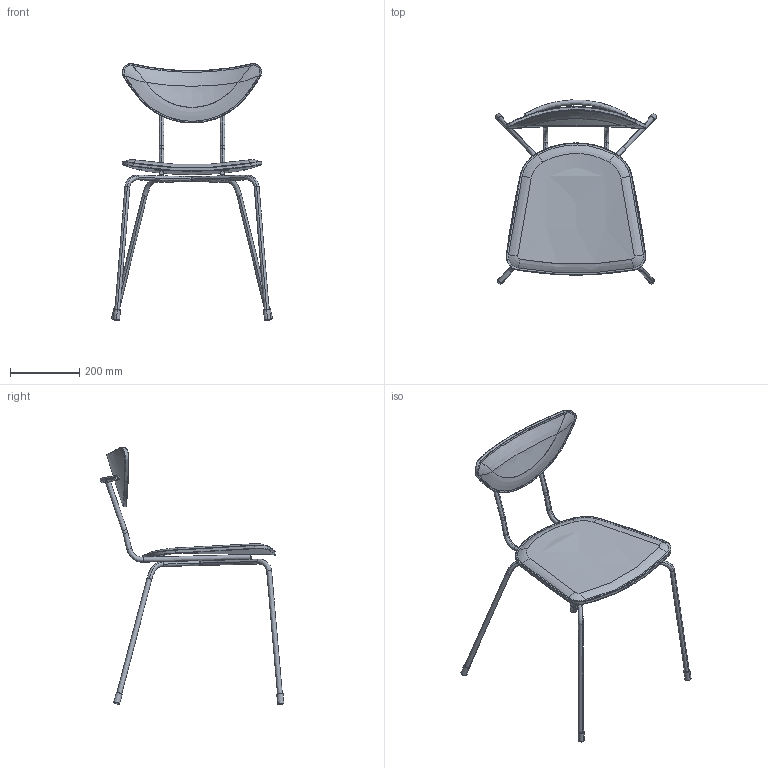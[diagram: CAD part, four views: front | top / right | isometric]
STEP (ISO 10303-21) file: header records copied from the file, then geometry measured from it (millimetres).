
FILE_DESCRIPTION(/* description */ (''),/* implementation_level */ '2;1');
FILE_NAME(/* name */ 'K90EVL~B',/* time_stamp */ '2020-06-23T09:19:06+09:00',/* author */ (''),/* organization */ (''),/* preprocessor_version */ 'ST-DEVELOPER v15',/* originating_system */ '',/* authorisation */ '');
FILE_SCHEMA (('AUTOMOTIVE_DESIGN'));
Length unit declared in the file: millimetre
Products named in the file (2): Document; ﾌﾞﾛｯｸ 65
Assembly tree (1 placements, depth 2):
  Document
    ﾌﾞﾛｯｸ 65
Bounding box: 464.48 x 529.5 x 740.05 mm (x, y, z)
Volume: 258224.1 mm3; surface area: 890746.2 mm2
Topology: 5 solids, 17 shells, 193 faces, 503 edges, 312 vertices
Faces by surface type: bspline 177, plane 16
Entity records: 29533 total; most frequent: CARTESIAN_POINT 26834, ORIENTED_EDGE 914, EDGE_CURVE 493, VERTEX_POINT 312, B_SPLINE_CURVE_WITH_KNOTS 217, EDGE_LOOP 197, ADVANCED_FACE 193, FACE_OUTER_BOUND 193
